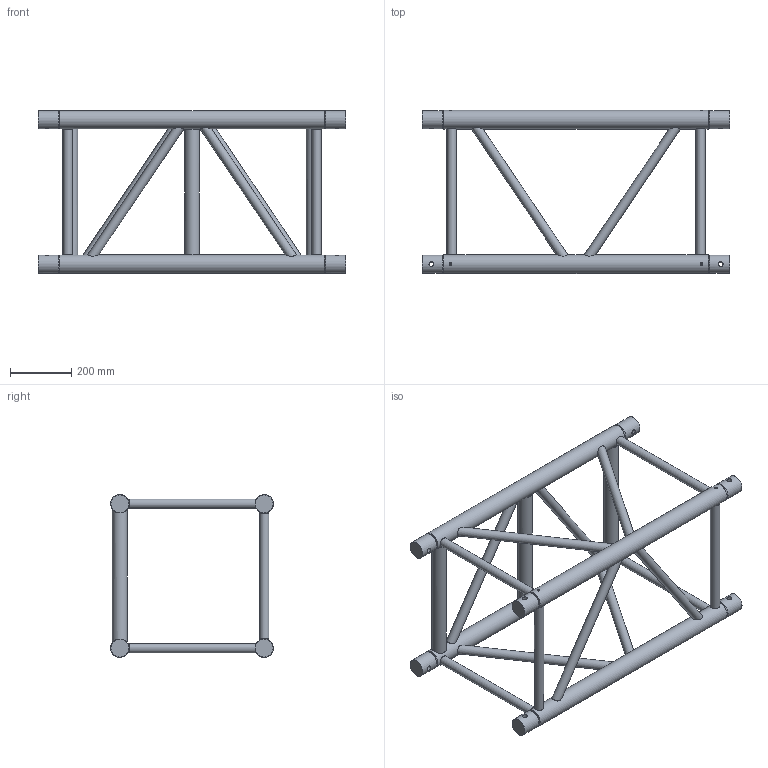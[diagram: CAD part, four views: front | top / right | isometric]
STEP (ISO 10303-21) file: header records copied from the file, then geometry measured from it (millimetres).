
FILE_DESCRIPTION(/* description */ ('C TOWER MAST SECTION 100 CM'),/* implementation_level */ '2;1');
FILE_NAME(/* name */ 'M:\Symbolen_NIEUW\STP\52-er truss\C52T\C52T-L100_111810002.stp',/* time_stamp */ '2017-12-15T15:31:47+01:00',/* author */ ('Kees'),/* organization */ (''),/* preprocessor_version */ 'ST-DEVELOPER v16.13',/* originating_system */ 'Autodesk Inventor 2018',/* authorisation */ '');
FILE_SCHEMA (('AUTOMOTIVE_DESIGN { 1 0 10303 214 3 1 1 }'));
Length unit declared in the file: millimetre
Products named in the file (1): 160009535
Bounding box: 1000 x 529.94 x 530 mm (x, y, z)
Volume: 17976852.3 mm3; surface area: 1586377.5 mm2
Topology: 3 solids, 3 shells, 215 faces, 517 edges, 320 vertices
Faces by surface type: plane 92, cylinder 75, cone 48
Full cylindrical faces by diameter (mm): 15.419 x8, 30 x14, 48.3 x3, 58.8 x8, 60 x4
Entity records: 8585 total; most frequent: CARTESIAN_POINT 3730, DIRECTION 912, ORIENTED_EDGE 888, EDGE_CURVE 444, AXIS2_PLACEMENT_3D 382, EDGE_LOOP 328, VERTEX_POINT 296, STYLED_ITEM 210
